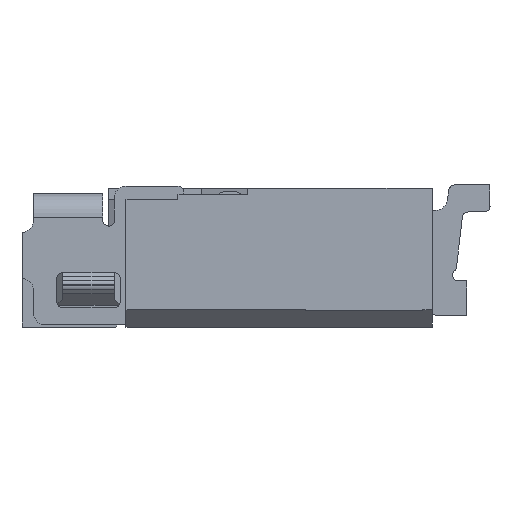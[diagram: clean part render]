
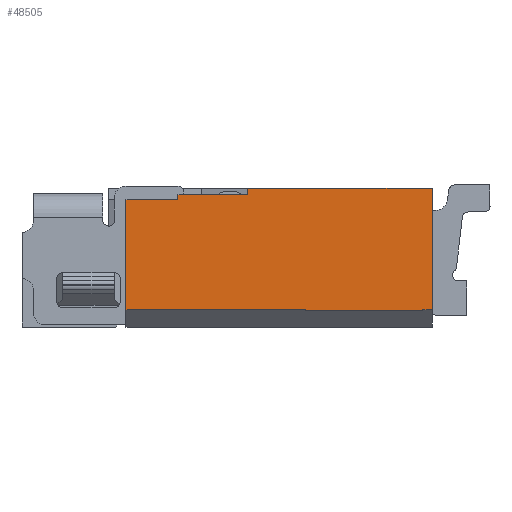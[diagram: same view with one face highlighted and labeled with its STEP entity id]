
A CAD part, left-side view. The second image highlights one B-rep face of the part: STEP entity #48505.
In plain terms, the highlighted planar face has unit normal (-1, 0, 0).
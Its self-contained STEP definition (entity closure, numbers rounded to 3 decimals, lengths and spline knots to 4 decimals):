
#573=DIRECTION('',(0.,-1.,0.));
#574=VECTOR('',#573,1.6);
#575=CARTESIAN_POINT('',(-11.75,-1.2,0.));
#576=LINE('',#575,#574);
#577=DIRECTION('',(0.,0.,-1.));
#578=VECTOR('',#577,1.05);
#579=CARTESIAN_POINT('',(-11.75,-2.8,0.));
#580=LINE('',#579,#578);
#581=DIRECTION('',(0.,0.,-1.));
#582=VECTOR('',#581,0.0041);
#583=CARTESIAN_POINT('',(-11.75,-2.7193,-1.05));
#584=LINE('',#583,#582);
#585=DIRECTION('',(0.,1.,0.));
#586=VECTOR('',#585,1.0193);
#587=CARTESIAN_POINT('',(-11.75,-2.7193,-1.0541));
#588=LINE('',#587,#586);
#589=DIRECTION('',(0.,1.,0.));
#590=VECTOR('',#589,0.45);
#591=CARTESIAN_POINT('',(-11.75,-0.6,-0.1));
#592=LINE('',#591,#590);
#609=DIRECTION('',(0.,0.,-1.));
#610=VECTOR('',#609,0.0444);
#611=CARTESIAN_POINT('',(-11.75,-0.6,-0.0556));
#612=LINE('',#611,#610);
#16722=DIRECTION('',(0.,1.,0.));
#16723=VECTOR('',#16722,0.6);
#16724=CARTESIAN_POINT('',(-11.75,-1.2,-0.0556));
#16725=LINE('',#16724,#16723);
#16942=DIRECTION('',(0.,0.,-1.));
#16943=VECTOR('',#16942,0.0556);
#16944=CARTESIAN_POINT('',(-11.75,-1.2,0.));
#16945=LINE('',#16944,#16943);
#34016=DIRECTION('',(0.,0.,-1.));
#34017=VECTOR('',#34016,0.95);
#34018=CARTESIAN_POINT('',(-11.75,-0.15,-0.1));
#34019=LINE('',#34018,#34017);
#34024=DIRECTION('',(0.,-1.,0.));
#34025=VECTOR('',#34024,0.0807);
#34026=CARTESIAN_POINT('',(-11.75,-2.7193,-1.05));
#34027=LINE('',#34026,#34025);
#34032=DIRECTION('',(0.,-1.,0.));
#34033=VECTOR('',#34032,1.55);
#34034=CARTESIAN_POINT('',(-11.75,-0.15,-1.05));
#34035=LINE('',#34034,#34033);
#34048=DIRECTION('',(0.,0.,-1.));
#34049=VECTOR('',#34048,0.0041);
#34050=CARTESIAN_POINT('',(-11.75,-1.7,-1.05));
#34051=LINE('',#34050,#34049);
#36057=CARTESIAN_POINT('',(-11.75,-2.7193,-1.0541));
#36059=VERTEX_POINT('',#36057);
#36460=CARTESIAN_POINT('',(-11.75,-2.8,-1.05));
#36461=VERTEX_POINT('',#36460);
#36463=CARTESIAN_POINT('',(-11.75,-2.8,0.));
#36465=VERTEX_POINT('',#36463);
#36858=CARTESIAN_POINT('',(-11.75,-0.6,-0.1));
#36859=CARTESIAN_POINT('',(-11.75,-0.15,-0.1));
#36860=VERTEX_POINT('',#36858);
#36861=VERTEX_POINT('',#36859);
#36862=CARTESIAN_POINT('',(-11.75,-0.6,-0.0556));
#36863=VERTEX_POINT('',#36862);
#36864=CARTESIAN_POINT('',(-11.75,-1.2,-0.0556));
#36865=VERTEX_POINT('',#36864);
#36866=CARTESIAN_POINT('',(-11.75,-1.2,0.));
#36867=VERTEX_POINT('',#36866);
#36868=CARTESIAN_POINT('',(-11.75,-2.7193,-1.05));
#36869=VERTEX_POINT('',#36868);
#36870=CARTESIAN_POINT('',(-11.75,-1.7,-1.0541));
#36871=VERTEX_POINT('',#36870);
#36872=CARTESIAN_POINT('',(-11.75,-1.7,-1.05));
#36873=VERTEX_POINT('',#36872);
#36874=CARTESIAN_POINT('',(-11.75,-0.15,-1.05));
#36875=VERTEX_POINT('',#36874);
#48476=CARTESIAN_POINT('',(-11.75,-1.475,-0.5271));
#48477=DIRECTION('',(1.,0.,0.));
#48478=DIRECTION('',(0.,-1.,0.));
#48479=AXIS2_PLACEMENT_3D('',#48476,#48477,#48478);
#48480=PLANE('',#48479);
#48482=ORIENTED_EDGE('',*,*,#48481,.F.);
#48484=ORIENTED_EDGE('',*,*,#48483,.F.);
#48486=ORIENTED_EDGE('',*,*,#48485,.F.);
#48488=ORIENTED_EDGE('',*,*,#48487,.F.);
#48489=ORIENTED_EDGE('',*,*,#48368,.T.);
#48490=ORIENTED_EDGE('',*,*,#47882,.T.);
#48492=ORIENTED_EDGE('',*,*,#48491,.F.);
#48494=ORIENTED_EDGE('',*,*,#48493,.T.);
#48496=ORIENTED_EDGE('',*,*,#48495,.T.);
#48498=ORIENTED_EDGE('',*,*,#48497,.F.);
#48500=ORIENTED_EDGE('',*,*,#48499,.F.);
#48502=ORIENTED_EDGE('',*,*,#48501,.F.);
#48503=EDGE_LOOP('',(#48482,#48484,#48486,#48488,#48489,#48490,#48492,#48494,
#48496,#48498,#48500,#48502));
#48504=FACE_OUTER_BOUND('',#48503,.F.);
#48505=ADVANCED_FACE('',(#48504),#48480,.F.);
#47882=EDGE_CURVE('',#36465,#36461,#580,.T.);
#48368=EDGE_CURVE('',#36867,#36465,#576,.T.);
#48481=EDGE_CURVE('',#36860,#36861,#592,.T.);
#48483=EDGE_CURVE('',#36863,#36860,#612,.T.);
#48485=EDGE_CURVE('',#36865,#36863,#16725,.T.);
#48487=EDGE_CURVE('',#36867,#36865,#16945,.T.);
#48491=EDGE_CURVE('',#36869,#36461,#34027,.T.);
#48493=EDGE_CURVE('',#36869,#36059,#584,.T.);
#48495=EDGE_CURVE('',#36059,#36871,#588,.T.);
#48497=EDGE_CURVE('',#36873,#36871,#34051,.T.);
#48499=EDGE_CURVE('',#36875,#36873,#34035,.T.);
#48501=EDGE_CURVE('',#36861,#36875,#34019,.T.);
